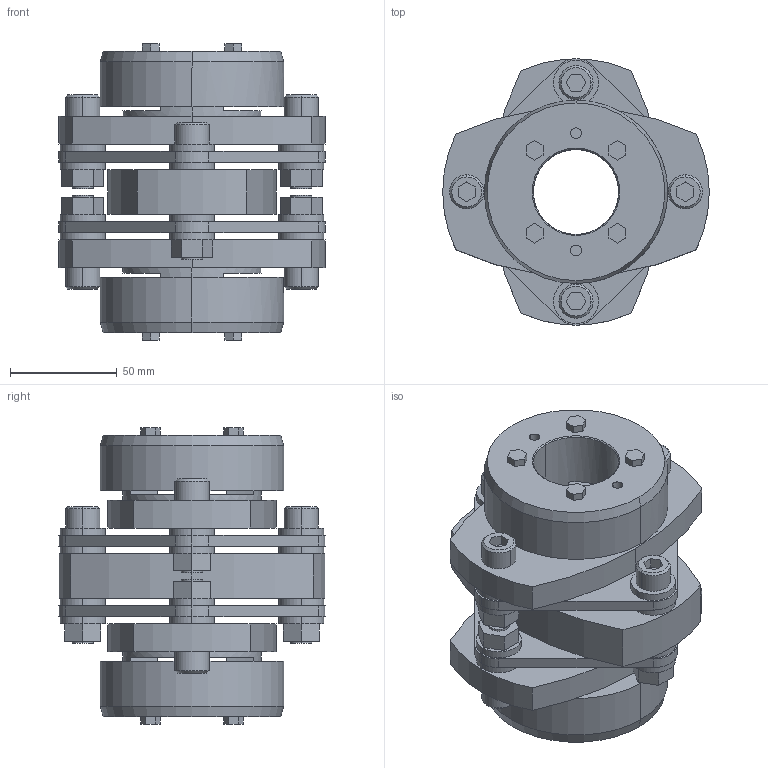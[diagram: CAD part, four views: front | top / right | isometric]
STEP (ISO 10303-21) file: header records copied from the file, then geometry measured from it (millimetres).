
FILE_DESCRIPTION((''),'2;1');
FILE_NAME('LCD-125T7-40×40.stp','2011-09-07T10:23:37',(''),(''),'AutoCAD STEP 2000i','AutoCAD 2000i',', , ');
FILE_SCHEMA(('CONFIG_CONTROL_DESIGN'));
Length unit declared in the file: millimetre
Products named in the file (9): LCD-125T7-40×40; 忣兜1; LC125T7-T040-1; LC125T7-T040; LC125T7-T038; LC125T7-T035; LC125T7-T032-1; LC125T7-T032; LCD125-ITA
Assembly tree (8 placements, depth 2):
  LCD-125T7-40×40
    忣兜1
    LC125T7-T040-1
    LC125T7-T040
    LC125T7-T038
    LC125T7-T035
    LC125T7-T032-1
    LC125T7-T032
    LCD125-ITA
Bounding box: 125 x 124.91 x 139 mm (x, y, z)
Volume: 679479.2 mm3; surface area: 140349.1 mm2
Topology: 1 solids, 1 shells, 334 faces, 818 edges, 538 vertices
Faces by surface type: plane 190, cylinder 120, cone 24
Entity records: 10127 total; most frequent: DIRECTION 1786, CARTESIAN_POINT 1699, ORIENTED_EDGE 1636, EDGE_CURVE 818, AXIS2_PLACEMENT_3D 625, VERTEX_POINT 538, VECTOR 536, LINE 536
